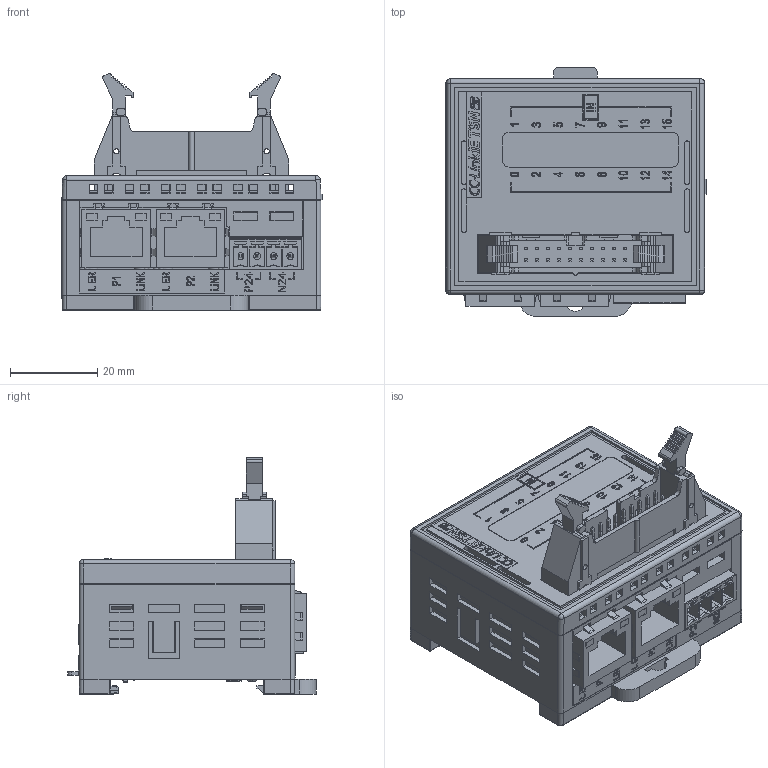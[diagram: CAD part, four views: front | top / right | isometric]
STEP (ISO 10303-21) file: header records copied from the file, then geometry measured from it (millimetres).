
FILE_DESCRIPTION((''),'2;1');
FILE_NAME('CTCMPF0','2026-05-11T14:30:29',('gijyu181'),(''),'CREO PARAMETRIC BY PTC INC, 2018050','CREO PARAMETRIC BY PTC INC, 2018050','');
FILE_SCHEMA(('CONFIG_CONTROL_DESIGN','SHAPE_APPEARANCE_LAYERS_GROUPS'));
Products named in the file (1): CTCMPF0
Bounding box: 59.75 x 57.15 x 54.5 mm (x, y, z)
Volume: 70720.7 mm3; surface area: 38763.5 mm2
Topology: 1 solids, 15 shells, 6202 faces, 17136 edges, 11271 vertices
Faces by surface type: plane 4805, cylinder 674, extrusion 609, sphere 44, torus 26, bspline 24, cone 20
Entity records: 247085 total; most frequent: CARTESIAN_POINT 43344, ORIENTED_EDGE 34244, DIRECTION 28701, EDGE_CURVE 17126, VECTOR 14825, LINE 14216, VERTEX_POINT 11271, PRESENTATION_STYLE_ASSIGNMENT 9357
